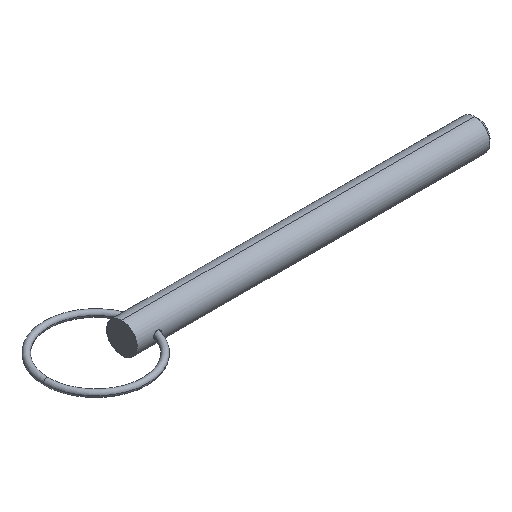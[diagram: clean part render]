
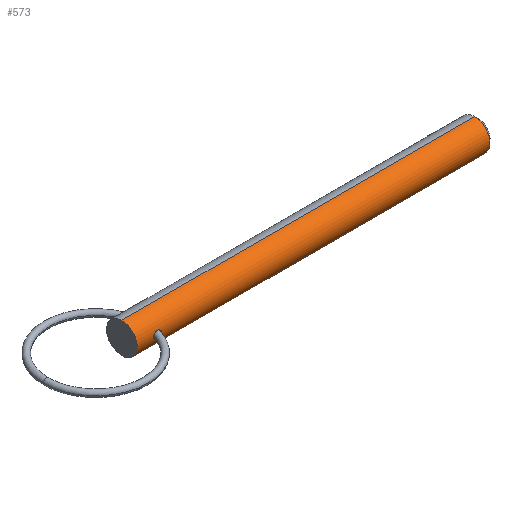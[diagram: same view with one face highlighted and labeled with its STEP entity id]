
A CAD part, isometric view. The second image highlights one B-rep face of the part: STEP entity #573.
In plain terms, the highlighted cylindrical face has radius 3.97 mm (diameter 7.94 mm), a partial arc.
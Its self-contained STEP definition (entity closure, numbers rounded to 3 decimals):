
#10 = FACE_OUTER_BOUND ( 'NONE', #676, .T. ) ;
#26 = CARTESIAN_POINT ( 'NONE',  ( 6.35, -3.97, 0.133 ) ) ;
#52 = CARTESIAN_POINT ( 'NONE',  ( 4.292, -3.963, 0.268 ) ) ;
#66 = CARTESIAN_POINT ( 'NONE',  ( 91.088, 0., 3.97 ) ) ;
#69 = CYLINDRICAL_SURFACE ( 'NONE', #394, 3.97 ) ;
#77 = CARTESIAN_POINT ( 'NONE',  ( 0., 0., 0. ) ) ;
#80 = B_SPLINE_CURVE_WITH_KNOTS ( 'NONE', 3,
 ( #712, #218, #141, #151, #655, #399, #330, #148, #85, #396, #522, #785, #459, #658, #652, #390 ),
 .UNSPECIFIED., .F., .F.,
 ( 4, 2, 2, 2, 2, 2, 2, 4 ),
 ( 0.004, 0.004, 0.005, 0.005, 0.005, 0.006, 0.007, 0.007 ),
 .UNSPECIFIED. ) ;
#85 = CARTESIAN_POINT ( 'NONE',  ( 5.452, -3.843, -0.996 ) ) ;
#93 = ORIENTED_EDGE ( 'NONE', *, *, #186, .T. ) ;
#103 = VERTEX_POINT ( 'NONE', #433 ) ;
#104 = CARTESIAN_POINT ( 'NONE',  ( 5.587, -3.849, 0.975 ) ) ;
#113 = CARTESIAN_POINT ( 'NONE',  ( 4.26, -3.97, 0. ) ) ;
#119 = VECTOR ( 'NONE', #735, 1000. ) ;
#141 = CARTESIAN_POINT ( 'NONE',  ( 6.323, -3.963, -0.268 ) ) ;
#148 = CARTESIAN_POINT ( 'NONE',  ( 5.587, -3.849, -0.975 ) ) ;
#151 = CARTESIAN_POINT ( 'NONE',  ( 6.221, -3.939, -0.513 ) ) ;
#154 = FACE_BOUND ( 'NONE', #172, .T. ) ;
#160 = VERTEX_POINT ( 'NONE', #440 ) ;
#161 = LINE ( 'NONE', #731, #358 ) ;
#170 = CIRCLE ( 'NONE', #815, 3.97 ) ;
#172 = EDGE_LOOP ( 'NONE', ( #636, #549 ) ) ;
#173 = CARTESIAN_POINT ( 'NONE',  ( 5.454, -3.843, 0.996 ) ) ;
#178 = CARTESIAN_POINT ( 'NONE',  ( 4.806, -3.876, 0.862 ) ) ;
#186 = EDGE_CURVE ( 'NONE', #401, #229, #170, .T. ) ;
#212 = DIRECTION ( 'NONE',  ( 0., 0., -1. ) ) ;
#218 = CARTESIAN_POINT ( 'NONE',  ( 6.35, -3.97, -0.133 ) ) ;
#221 = DIRECTION ( 'NONE',  ( 0., 0., -1. ) ) ;
#227 = LINE ( 'NONE', #545, #119 ) ;
#229 = VERTEX_POINT ( 'NONE', #480 ) ;
#245 = CARTESIAN_POINT ( 'NONE',  ( 4.26, -3.97, 0. ) ) ;
#259 = VERTEX_POINT ( 'NONE', #245 ) ;
#269 = EDGE_CURVE ( 'NONE', #259, #103, #839, .T. ) ;
#292 = DIRECTION ( 'NONE',  ( 1., 0., 0. ) ) ;
#297 = ORIENTED_EDGE ( 'NONE', *, *, #749, .T. ) ;
#326 = DIRECTION ( 'NONE',  ( 1., 0., 0. ) ) ;
#330 = CARTESIAN_POINT ( 'NONE',  ( 5.838, -3.871, -0.882 ) ) ;
#350 = VERTEX_POINT ( 'NONE', #66 ) ;
#358 = VECTOR ( 'NONE', #805, 1000. ) ;
#390 = CARTESIAN_POINT ( 'NONE',  ( 4.26, -3.97, 0. ) ) ;
#394 = AXIS2_PLACEMENT_3D ( 'NONE', #77, #326, #212 ) ;
#396 = CARTESIAN_POINT ( 'NONE',  ( 5.052, -3.846, -0.984 ) ) ;
#399 = CARTESIAN_POINT ( 'NONE',  ( 5.952, -3.887, -0.811 ) ) ;
#401 = VERTEX_POINT ( 'NONE', #439 ) ;
#408 = CARTESIAN_POINT ( 'NONE',  ( 6.35, -3.97, 0. ) ) ;
#413 = CARTESIAN_POINT ( 'NONE',  ( 5.838, -3.871, 0.882 ) ) ;
#427 = CARTESIAN_POINT ( 'NONE',  ( 4.492, -3.923, 0.615 ) ) ;
#433 = CARTESIAN_POINT ( 'NONE',  ( 6.35, -3.97, 0. ) ) ;
#437 = AXIS2_PLACEMENT_3D ( 'NONE', #540, #793, #221 ) ;
#439 = CARTESIAN_POINT ( 'NONE',  ( 0., 0., 3.97 ) ) ;
#440 = CARTESIAN_POINT ( 'NONE',  ( 91.088, 0., -3.97 ) ) ;
#447 = ORIENTED_EDGE ( 'NONE', *, *, #802, .F. ) ;
#459 = CARTESIAN_POINT ( 'NONE',  ( 4.408, -3.939, -0.507 ) ) ;
#470 = CARTESIAN_POINT ( 'NONE',  ( 5.054, -3.852, 0.96 ) ) ;
#476 = CARTESIAN_POINT ( 'NONE',  ( 4.69, -3.891, 0.791 ) ) ;
#480 = CARTESIAN_POINT ( 'NONE',  ( 0., 0., -3.97 ) ) ;
#497 = CARTESIAN_POINT ( 'NONE',  ( 4.408, -3.939, 0.508 ) ) ;
#522 = CARTESIAN_POINT ( 'NONE',  ( 4.787, -3.876, -0.878 ) ) ;
#540 = CARTESIAN_POINT ( 'NONE',  ( 91.088, 0., 0. ) ) ;
#545 = CARTESIAN_POINT ( 'NONE',  ( 0., 0., -3.97 ) ) ;
#549 = ORIENTED_EDGE ( 'NONE', *, *, #671, .T. ) ;
#550 = CARTESIAN_POINT ( 'NONE',  ( 5.185, -3.845, 0.988 ) ) ;
#573 = ADVANCED_FACE ( 'NONE', ( #10, #154 ), #69, .T. ) ;
#586 = CIRCLE ( 'NONE', #437, 3.97 ) ;
#610 = CARTESIAN_POINT ( 'NONE',  ( 0., 0., 0. ) ) ;
#625 = CARTESIAN_POINT ( 'NONE',  ( 4.26, -3.97, 0.135 ) ) ;
#636 = ORIENTED_EDGE ( 'NONE', *, *, #269, .T. ) ;
#652 = CARTESIAN_POINT ( 'NONE',  ( 4.26, -3.97, -0.135 ) ) ;
#655 = CARTESIAN_POINT ( 'NONE',  ( 6.145, -3.922, -0.625 ) ) ;
#658 = CARTESIAN_POINT ( 'NONE',  ( 4.292, -3.963, -0.267 ) ) ;
#671 = EDGE_CURVE ( 'NONE', #103, #259, #80, .T. ) ;
#676 = EDGE_LOOP ( 'NONE', ( #447, #93, #297, #687 ) ) ;
#687 = ORIENTED_EDGE ( 'NONE', *, *, #750, .F. ) ;
#689 = CARTESIAN_POINT ( 'NONE',  ( 6.323, -3.963, 0.268 ) ) ;
#712 = CARTESIAN_POINT ( 'NONE',  ( 6.35, -3.97, 0. ) ) ;
#731 = CARTESIAN_POINT ( 'NONE',  ( 0., 0., 3.97 ) ) ;
#735 = DIRECTION ( 'NONE',  ( 1., 0., 0. ) ) ;
#736 = CARTESIAN_POINT ( 'NONE',  ( 5.953, -3.888, 0.81 ) ) ;
#740 = CARTESIAN_POINT ( 'NONE',  ( 6.221, -3.939, 0.513 ) ) ;
#749 = EDGE_CURVE ( 'NONE', #229, #160, #227, .T. ) ;
#750 = EDGE_CURVE ( 'NONE', #350, #160, #586, .T. ) ;
#759 = DIRECTION ( 'NONE',  ( 0., 0., -1. ) ) ;
#785 = CARTESIAN_POINT ( 'NONE',  ( 4.492, -3.923, -0.614 ) ) ;
#793 = DIRECTION ( 'NONE',  ( 1., 0., 0. ) ) ;
#801 = CARTESIAN_POINT ( 'NONE',  ( 6.145, -3.922, 0.626 ) ) ;
#802 = EDGE_CURVE ( 'NONE', #401, #350, #161, .T. ) ;
#805 = DIRECTION ( 'NONE',  ( 1., 0., 0. ) ) ;
#815 = AXIS2_PLACEMENT_3D ( 'NONE', #610, #292, #759 ) ;
#839 = B_SPLINE_CURVE_WITH_KNOTS ( 'NONE', 3,
 ( #113, #625, #52, #497, #427, #476, #178, #470, #550, #173, #104, #413, #736, #801, #740, #689, #26, #408 ),
 .UNSPECIFIED., .F., .F.,
 ( 4, 2, 2, 2, 2, 2, 2, 2, 4 ),
 ( 0.001, 0.001, 0.001, 0.002, 0.002, 0.003, 0.003, 0.003, 0.004 ),
 .UNSPECIFIED. ) ;
